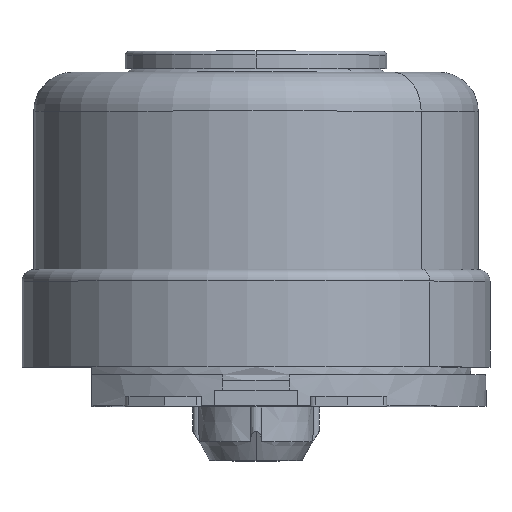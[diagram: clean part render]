
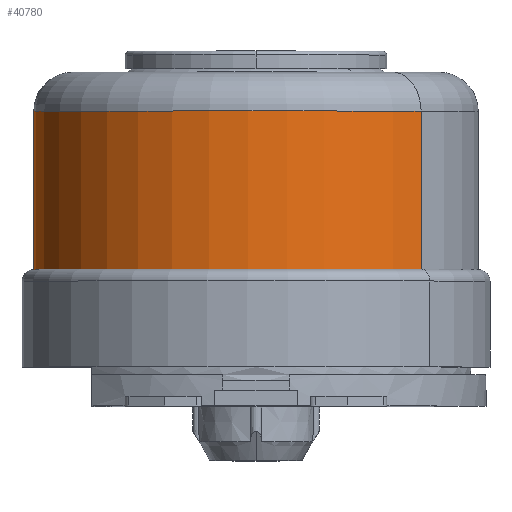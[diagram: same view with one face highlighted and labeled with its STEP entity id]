
A CAD part, top view. The second image highlights one B-rep face of the part: STEP entity #40780.
In plain terms, the highlighted cylindrical face has radius 5.695 mm (diameter 11.39 mm), a partial arc.
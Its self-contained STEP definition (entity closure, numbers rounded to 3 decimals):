
#40370=CARTESIAN_POINT('',(0.,0.584,
0.));
#40380=DIRECTION('',(0.,-1.,0.));
#40390=DIRECTION('',(-0.742,0.,-0.67));
#40400=AXIS2_PLACEMENT_3D('',#40370,#40380,#40390);
#40410=CYLINDRICAL_SURFACE('',#40400,5.695);
#40420=CARTESIAN_POINT('',(-4.227,0.584,
-3.817));
#40430=DIRECTION('',(0.,-1.,0.));
#40440=VECTOR('',#40430,1.);
#40450=LINE('',#40420,#40440);
#40460=CARTESIAN_POINT('',(-4.227,7.55,-3.817));
#40470=VERTEX_POINT('',#40460);
#40480=CARTESIAN_POINT('',(-4.227,3.5,-3.817));
#40490=VERTEX_POINT('',#40480);
#40500=EDGE_CURVE('',#40470,#40490,#40450,.T.);
#40510=ORIENTED_EDGE('',*,*,#40500,.T.);
#40520=CARTESIAN_POINT('',(0.,7.55,
0.));
#40530=DIRECTION('',(0.,1.,0.));
#40540=DIRECTION('',(-0.742,0.,-0.67));
#40550=AXIS2_PLACEMENT_3D('',#40520,#40530,#40540);
#40560=CIRCLE('',#40550,5.695);
#40570=CARTESIAN_POINT('',(4.227,7.55,3.817));
#40580=VERTEX_POINT('',#40570);
#40590=EDGE_CURVE('',#40470,#40580,#40560,.T.);
#40600=ORIENTED_EDGE('',*,*,#40590,.F.);
#40610=CARTESIAN_POINT('',(4.227,0.584,
3.817));
#40620=DIRECTION('',(0.,-1.,0.));
#40630=VECTOR('',#40620,1.);
#40640=LINE('',#40610,#40630);
#40650=CARTESIAN_POINT('',(4.227,3.5,3.817));
#40660=VERTEX_POINT('',#40650);
#40670=EDGE_CURVE('',#40580,#40660,#40640,.T.);
#40680=ORIENTED_EDGE('',*,*,#40670,.F.);
#40690=CARTESIAN_POINT('',(0.,3.5,0.
));
#40700=DIRECTION('',(0.,-1.,-0.));
#40710=DIRECTION('',(-0.742,0.,-0.67));
#40720=AXIS2_PLACEMENT_3D('',#40690,#40700,#40710);
#40730=CIRCLE('',#40720,5.695);
#40740=EDGE_CURVE('',#40660,#40490,#40730,.T.);
#40750=ORIENTED_EDGE('',*,*,#40740,.F.);
#40760=EDGE_LOOP('',(#40750,#40680,#40600,#40510));
#40770=FACE_OUTER_BOUND('',#40760,.T.);
#40780=ADVANCED_FACE('',(#40770),#40410,.T.);
